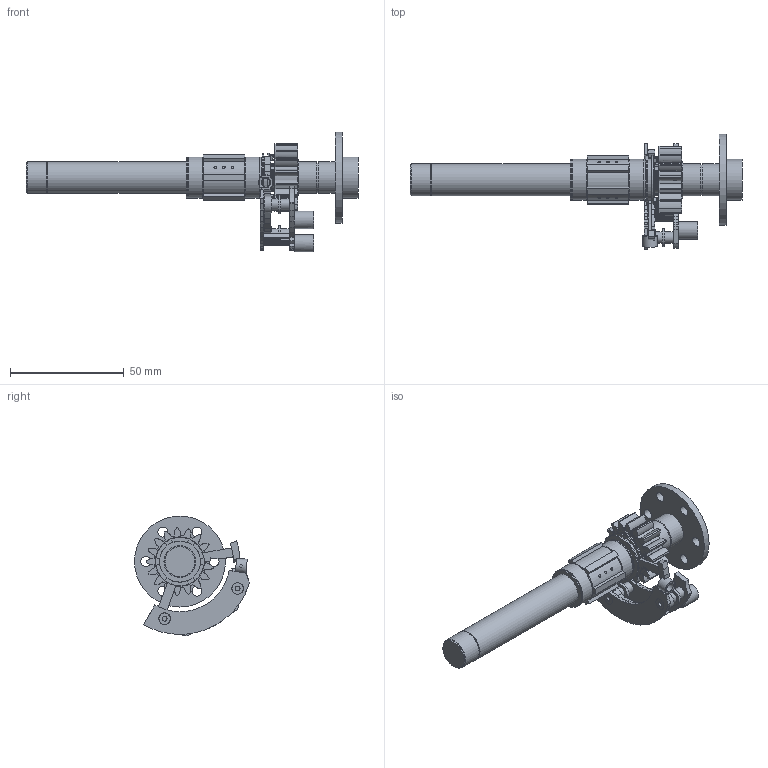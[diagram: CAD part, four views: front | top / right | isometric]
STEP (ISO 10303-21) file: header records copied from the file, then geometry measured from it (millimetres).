
FILE_DESCRIPTION(('Open CASCADE Model'),'2;1');
FILE_NAME('R12_INSTALL_08','2026-09-28T18:28:04',('Author'),( 'Open CASCADE'),'Open CASCADE STEP processor 7.9','build123d', 'Unknown');
FILE_SCHEMA(('AUTOMOTIVE_DESIGN { 1 0 10303 214 1 1 1 1 }'));
Length unit declared in the file: millimetre
Products named in the file (13): R12_INSTALL_08; U_R12_local_12mm_shaft; B3_R12_U_axis_single_sided_dog; B3_R12_U_axis_two_foot_fork; B3_R12_front_support_and_carrier; B3_R12_guide_rod_1_with_stop; B3_R12_guide_rod_2_with_stop; B3_R12_removable_rear_support; B3_R12_bush_boundary_C_clip; B3_R12_12x14_flanged_plain_bush; B3_R12_free_17T_end_face_windows; U_R12_removable_original_bearing_seal_land; output_R12_detachable_R7_external_flange
Assembly tree (12 placements, depth 2):
  R12_INSTALL_08
    U_R12_local_12mm_shaft
    B3_R12_U_axis_single_sided_dog
    B3_R12_U_axis_two_foot_fork
    B3_R12_front_support_and_carrier
    B3_R12_guide_rod_1_with_stop
    B3_R12_guide_rod_2_with_stop
    B3_R12_removable_rear_support
    B3_R12_bush_boundary_C_clip
    B3_R12_12x14_flanged_plain_bush
    B3_R12_free_17T_end_face_windows
    U_R12_removable_original_bearing_seal_land
    output_R12_detachable_R7_external_flange
Bounding box: 146 x 50.63 x 52.69 mm (x, y, z)
Volume: 37625.2 mm3; surface area: 23391.8 mm2
Topology: 12 solids, 12 shells, 1403 faces, 3785 edges, 2461 vertices
Faces by surface type: plane 1192, cylinder 152, extrusion 34, cone 16, sphere 9
Full cylindrical faces by diameter (mm): 1.3 x2, 2.1 x4, 2.6 x2, 4.06 x1, 4.2 x1, 4.4 x6, 5 x4, 5.08 x6, 5.5 x1, 6.4 x1, 7.4 x2, 7.6 x2, 8 x2, 8.7 x1, 11.6 x1, 12 x2, 12.05 x2, 13.2 x3, 14 x5, 14.05 x1, 14.2 x2, 14.6 x1, 14.7 x1, 16 x1, 17.7 x4, 18 x5, 18.8 x1, 21.2 x2, 21.7 x1, 40 x1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
Entity records: 103677 total; most frequent: CARTESIAN_POINT 26668, DIRECTION 14189, VECTOR 10394, LINE 10360, ORIENTED_EDGE 7564, PCURVE 7564, DEFINITIONAL_REPRESENTATION 7564, EDGE_CURVE 3782
